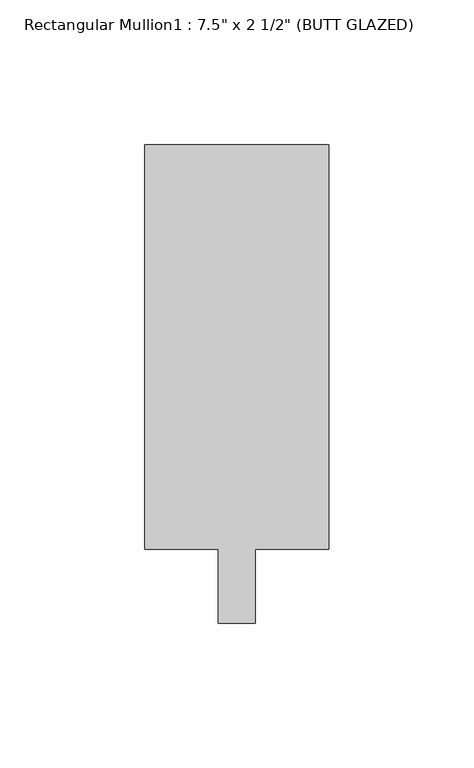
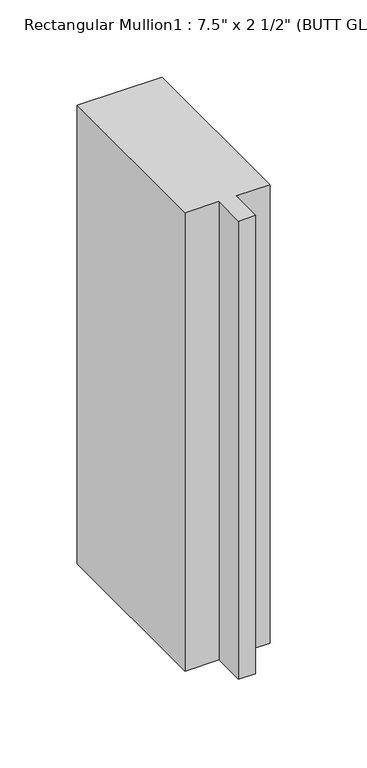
"""IFC4 building model written with IfcOpenShell, lengths in millimetres: member geometry."""

from ifc_helpers import new_model, si_unit, frame, origin, place, context, project, spatial, polyline, outline, extrude, source, transform, mapped, element, save


def member_bdc3bb3b(model_context):
    return source(origin(), model_context, "Body", "SweptSolid", [
        extrude(outline(polyline([(31.75, 165.1), (31.75, 25.4), (6.35, 25.4), (6.35, 0.0), (-6.35, 0.0), (-6.35, 25.4), (-31.75, 25.4), (-31.75, 165.1), (31.75, 165.1)])), frame((0.0, 0.0, -361.95), z_axis=(0.0, 0.0, 1.0), x_axis=(1.0, 0.0, 0.0)), (0.0, 0.0, 1.0), 361.95),
    ])


if __name__ == "__main__":
    model = new_model("IFC4")
    model_context = context("Model", 3, world=origin())
    ifc_project = project(units=[si_unit("LENGTHUNIT", "METRE", prefix="MILLI")], contexts=[model_context])
    site = spatial("IfcSite", under=ifc_project)
    building = spatial("IfcBuilding", under=site)
    placement = place(None, origin())
    member_shape = member_bdc3bb3b(model_context)
    element("IfcMember", 1, ObjectType="Rectangular Mullion1 : 7.5\" x 2 1/2\" (BUTT GLAZED)", at=placement, inside=building, context=model_context, shape_type="MappedRepresentation", body=[
        mapped(member_shape, transform((0.0, 0.0, 0.0), x_axis=(1.0, 0.0, 0.0), y_axis=(0.0, 1.0, 0.0), z_axis=(0.0, 0.0, 1.0))),
    ])
    save(model, "model.ifc")
